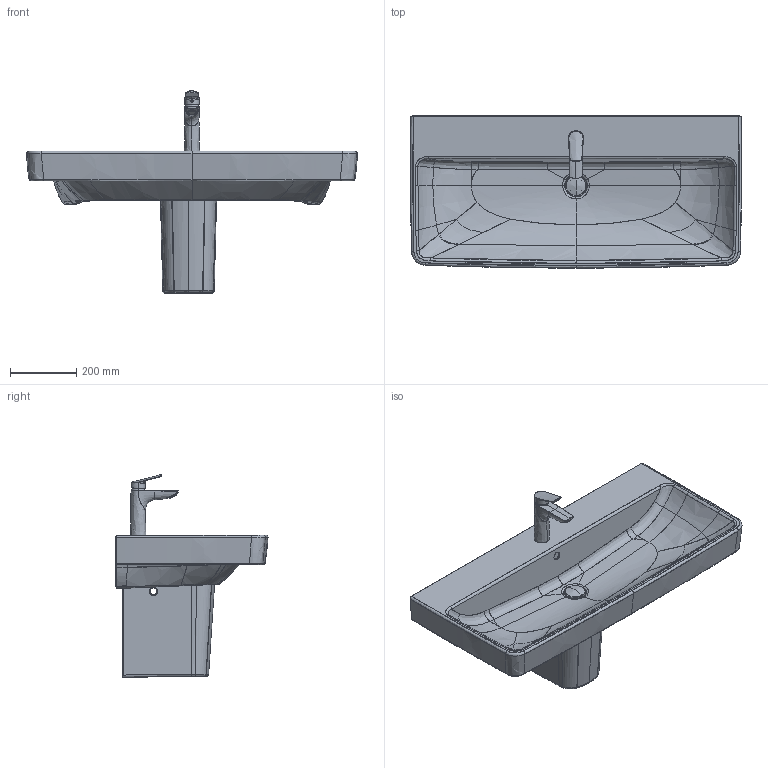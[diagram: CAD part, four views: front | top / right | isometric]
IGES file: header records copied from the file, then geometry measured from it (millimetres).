
Global section: file name: d:\users\matthias.isele\Desktop\Planungsdaten_erstellen\Keramik\Duravit_No.1\237510\3D\237510_085845.igs; native system: Rhinoceros ( Sep 13 2016 ); preprocessor: Trout Lake IGES 012 Sep 13 2016; date: 240220.131011; units: millimetre
Bounding box: 1000.34 x 460 x 612.2 mm (x, y, z)
Surface area: 2070689.1 mm2 (no closed solid volume)
Topology: 0 solids, 0 shells, 741 faces, 6948 edges, 6927 vertices
Faces by surface type: bspline 741
